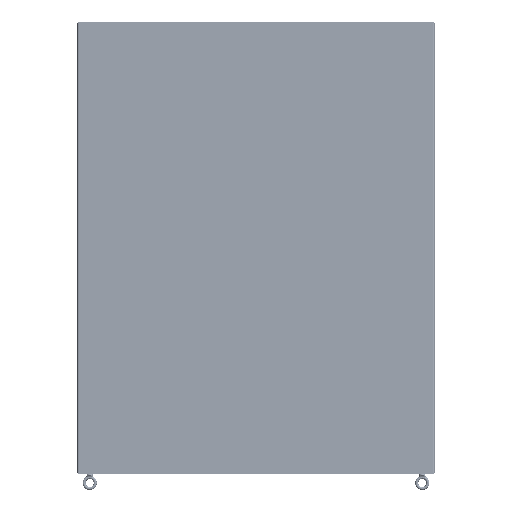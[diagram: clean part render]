
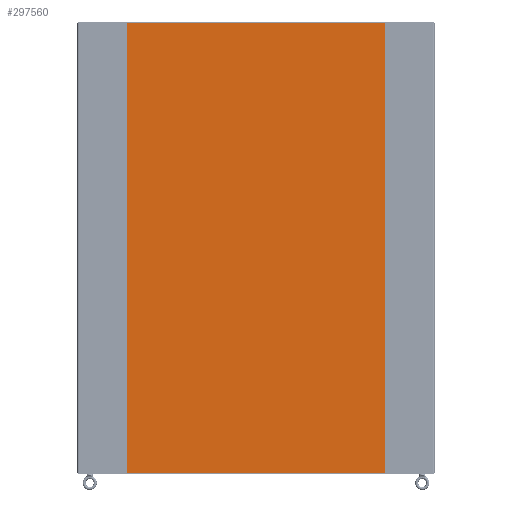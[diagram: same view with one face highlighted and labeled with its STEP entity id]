
A CAD part, left-side view. The second image highlights one B-rep face of the part: STEP entity #297560.
In plain terms, the highlighted planar face has unit normal (-1, 0, 0) as drawn and (0, 0, -1) by its records, which use the part's own axes.
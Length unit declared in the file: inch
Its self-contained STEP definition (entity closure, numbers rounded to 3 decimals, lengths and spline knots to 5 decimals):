
#297254=CARTESIAN_POINT('',(-19.335,33.856,-0.104));
#297255=DIRECTION('',(0.,0.,-1.));
#297256=DIRECTION('',(-1.,0.,0.));
#297257=AXIS2_PLACEMENT_3D('',#297254,#297255,#297256);
#297262=DIRECTION('',(0.,-1.,0.));
#297263=VECTOR('',#297262,67.712);
#297264=CARTESIAN_POINT('',(-19.375,33.856,-0.104));
#297265=LINE('',#297264,#297263);
#297269=CARTESIAN_POINT('',(-19.335,-33.856,-0.104));
#297270=DIRECTION('',(0.,0.,-1.));
#297271=DIRECTION('',(0.,-1.,0.));
#297272=AXIS2_PLACEMENT_3D('',#297269,#297270,#297271);
#297277=DIRECTION('',(1.,0.,0.));
#297278=VECTOR('',#297277,38.67);
#297279=CARTESIAN_POINT('',(-19.335,-33.896,-0.104));
#297280=LINE('',#297279,#297278);
#297284=CARTESIAN_POINT('',(19.335,-33.856,-0.104));
#297285=DIRECTION('',(0.,0.,-1.));
#297286=DIRECTION('',(1.,0.,0.));
#297287=AXIS2_PLACEMENT_3D('',#297284,#297285,#297286);
#297292=DIRECTION('',(0.,1.,0.));
#297293=VECTOR('',#297292,67.712);
#297294=CARTESIAN_POINT('',(19.375,-33.856,-0.104));
#297295=LINE('',#297294,#297293);
#297299=CARTESIAN_POINT('',(19.335,33.856,-0.104));
#297300=DIRECTION('',(0.,0.,-1.));
#297301=DIRECTION('',(0.,1.,0.));
#297302=AXIS2_PLACEMENT_3D('',#297299,#297300,#297301);
#297307=DIRECTION('',(-1.,0.,0.));
#297308=VECTOR('',#297307,38.67);
#297309=CARTESIAN_POINT('',(19.335,33.896,-0.104));
#297310=LINE('',#297309,#297308);
#297318=CARTESIAN_POINT('',(-19.375,33.856,-0.104));
#297319=VERTEX_POINT('',#297318);
#297320=CARTESIAN_POINT('',(-19.335,33.896,-0.104));
#297321=VERTEX_POINT('',#297320);
#297326=CARTESIAN_POINT('',(-19.335,-33.896,-0.104));
#297327=VERTEX_POINT('',#297326);
#297328=CARTESIAN_POINT('',(-19.375,-33.856,-0.104));
#297329=VERTEX_POINT('',#297328);
#297334=CARTESIAN_POINT('',(19.335,33.896,-0.104));
#297335=VERTEX_POINT('',#297334);
#297336=CARTESIAN_POINT('',(19.335,-33.896,-0.104));
#297337=VERTEX_POINT('',#297336);
#297340=CARTESIAN_POINT('',(19.375,33.856,-0.104));
#297341=VERTEX_POINT('',#297340);
#297344=CARTESIAN_POINT('',(19.375,-33.856,-0.104));
#297345=VERTEX_POINT('',#297344);
#297545=CARTESIAN_POINT('',(0.,0.,-0.104));
#297546=DIRECTION('',(0.,0.,1.));
#297547=DIRECTION('',(1.,0.,0.));
#297548=AXIS2_PLACEMENT_3D('',#297545,#297546,#297547);
#297549=PLANE('',#297548);
#297550=ORIENTED_EDGE('',*,*,#297385,.F.);
#297551=ORIENTED_EDGE('',*,*,#297408,.T.);
#297552=ORIENTED_EDGE('',*,*,#297428,.F.);
#297553=ORIENTED_EDGE('',*,*,#297450,.T.);
#297554=ORIENTED_EDGE('',*,*,#297470,.F.);
#297555=ORIENTED_EDGE('',*,*,#297490,.T.);
#297556=ORIENTED_EDGE('',*,*,#297512,.F.);
#297557=ORIENTED_EDGE('',*,*,#297531,.T.);
#297558=EDGE_LOOP('',(#297550,#297551,#297552,#297553,#297554,#297555,#297556,
#297557));
#297559=FACE_OUTER_BOUND('',#297558,.F.);
#297258=CIRCLE('',#297257,0.04);
#297273=CIRCLE('',#297272,0.04);
#297288=CIRCLE('',#297287,0.04);
#297303=CIRCLE('',#297302,0.04);
#297385=EDGE_CURVE('',#297319,#297321,#297258,.T.);
#297408=EDGE_CURVE('',#297319,#297329,#297265,.T.);
#297428=EDGE_CURVE('',#297327,#297329,#297273,.T.);
#297450=EDGE_CURVE('',#297327,#297337,#297280,.T.);
#297470=EDGE_CURVE('',#297345,#297337,#297288,.T.);
#297490=EDGE_CURVE('',#297345,#297341,#297295,.T.);
#297512=EDGE_CURVE('',#297335,#297341,#297303,.T.);
#297531=EDGE_CURVE('',#297335,#297321,#297310,.T.);
#297560=ADVANCED_FACE('',(#297559),#297549,.F.);
